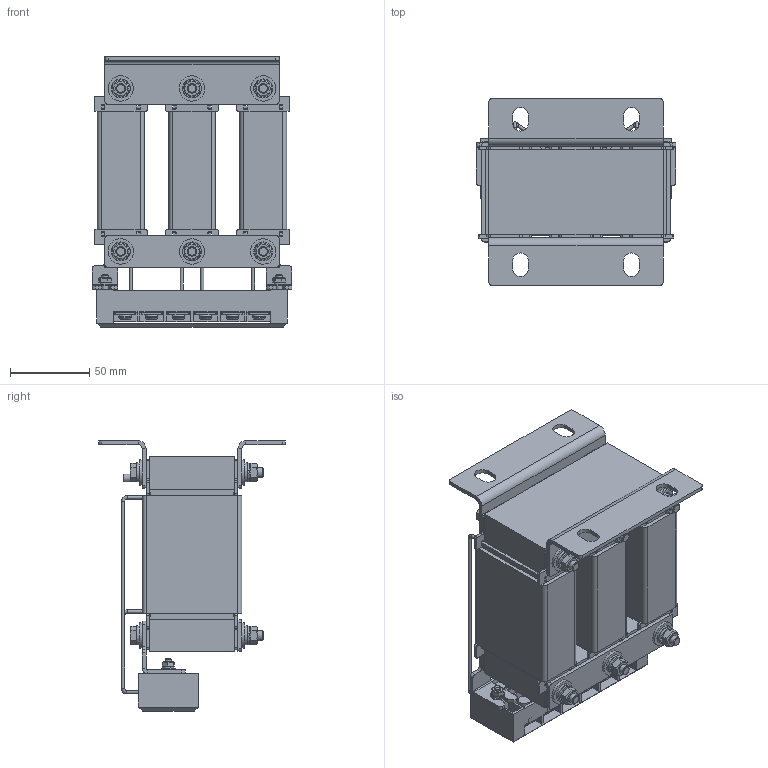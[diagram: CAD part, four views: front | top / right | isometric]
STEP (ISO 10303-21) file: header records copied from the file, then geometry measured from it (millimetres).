
FILE_DESCRIPTION (( 'STEP AP203' ), '1' );
FILE_NAME ('Ñåòåâîé äðîññåëü _ ISF-18.5_38.5-4.STEP', '2026-07-22T09:34:37', ( '' ), ( '' ), 'SwSTEP 2.0', 'SolidWorks 2021', '' );
FILE_SCHEMA (( 'CONFIG_CONTROL_DESIGN' ));
Length unit declared in the file: millimetre
Products named in the file (30): Ñòåíêà êàðêàñà êàòóøêè ïðîäîëüíàÿ _ 11-22_04; Ëàïà ñî øïèëüêîé çàçåìëåíèÿ _ 5.5-22_‘â ­¤ àâ 01; Øàéáà ïðóæèííàÿ DIN 127 (A)_Œ4; Óãîëîê êëåììíèêà _ 11-22_01; Áîëò DIN 933_Œ6å80; ������� _ 11-22_�ࠢ��; Ãàéêà DIN 934_Œ6; ������� � �������� _ 11-22_�ࠢ��; Ïëàñòèíà ïðèæèìíàÿ _ 5.5-22_01; 肃镟 _ 5.5-22_戔牠噔 01; 孰屐祉 蝈痨桧嚯 TB-4506; Ñåòåâîé äðîññåëü _ ISF-18.5_38.5-4; Êàòóøêà ñ êàðêàñîì _ 11-22_‹¥¢ ï; Ñòåíêà êàðêàñà êàòóøêè ïîïåðå÷íàÿ _ 11-22_04; Øàéáà ïëîñêàÿ DIN 125 (A)_Œ6; Êðûøêà êëåììíîãî òåðìèíàëà TB-4506; Øàéáà ïðóæèííàÿ DIN 127 (A)_Œ6; ﾑ褞蒟韭 _ ISF-18.5_01; Øàéáà ïëîñêàÿ DIN 125 (A)_Œ4; Êîðïóñ êëåììíîãî òåðìèíàëà TB-4506; 昢膼瘔 _ ISF-18.5; Ëàïà _ 5.5-22_‘â ­¤ àâ ¯®¤ è¯¨«ìªã 01; Êàòóøêà ñ êàðêàñîì _ 11-22_–¥­âà «ì­ ï; Øïèëüêà ïðèâàðíàÿ_Œ5å12; Øàéáà ïëîñêàÿ DIN 9021_Œ6 ¯®«¨ ¬¨¤; Âèíò DIN 965 PH_Œ4å16; Êàòóøêà _ 11-22_‹¥¢ ï; Ãàéêà DIN 934_Œ4; Êàòóøêà _ 11-22_–¥­âà «ì­ ï; Êàðêàñ êàòóøêè _ 11-22_04
Assembly tree (74 placements, depth 5):
  Ñåòåâîé äðîññåëü _ ISF-18.5_38.5-4
    ﾑ褞蒟韭 _ ISF-18.5_01
      ������� � �������� _ 11-22_�ࠢ��
        Êàðêàñ êàòóøêè _ 11-22_04
          Ñòåíêà êàðêàñà êàòóøêè ïðîäîëüíàÿ _ 11-22_04  x2
          Ñòåíêà êàðêàñà êàòóøêè ïîïåðå÷íàÿ _ 11-22_04  x2
        ������� _ 11-22_�ࠢ��
      Êàòóøêà ñ êàðêàñîì _ 11-22_–¥­âà «ì­ ï
        Êàðêàñ êàòóøêè _ 11-22_04
          Ñòåíêà êàðêàñà êàòóøêè ïðîäîëüíàÿ _ 11-22_04  x2
          Ñòåíêà êàðêàñà êàòóøêè ïîïåðå÷íàÿ _ 11-22_04  x2
        Êàòóøêà _ 11-22_–¥­âà «ì­ ï
      Êàòóøêà ñ êàðêàñîì _ 11-22_‹¥¢ ï
        Êàðêàñ êàòóøêè _ 11-22_04
          Ñòåíêà êàðêàñà êàòóøêè ïðîäîëüíàÿ _ 11-22_04  x2
          Ñòåíêà êàðêàñà êàòóøêè ïîïåðå÷íàÿ _ 11-22_04  x2
        Êàòóøêà _ 11-22_‹¥¢ ï
      昢膼瘔 _ ISF-18.5
    Óãîëîê êëåììíèêà _ 11-22_01
    Ïëàñòèíà ïðèæèìíàÿ _ 5.5-22_01
    肃镟 _ 5.5-22_戔牠噔 01
    Ëàïà ñî øïèëüêîé çàçåìëåíèÿ _ 5.5-22_‘â ­¤ àâ 01
      Ëàïà _ 5.5-22_‘â ­¤ àâ ¯®¤ è¯¨«ìªã 01
      Øïèëüêà ïðèâàðíàÿ_Œ5å12
    孰屐祉 蝈痨桧嚯 TB-4506
      Êîðïóñ êëåììíîãî òåðìèíàëà TB-4506
      Êðûøêà êëåììíîãî òåðìèíàëà TB-4506
    Øàéáà ïëîñêàÿ DIN 9021_Œ6 ¯®«¨ ¬¨¤  x12
    Øàéáà ïëîñêàÿ DIN 125 (A)_Œ6  x12
    Øàéáà ïðóæèííàÿ DIN 127 (A)_Œ6  x6
    Ãàéêà DIN 934_Œ6  x6
    Áîëò DIN 933_Œ6å80  x6
    Âèíò DIN 965 PH_Œ4å16  x2
    Øàéáà ïëîñêàÿ DIN 125 (A)_Œ4  x2
    Øàéáà ïðóæèííàÿ DIN 127 (A)_Œ4  x2
    Ãàéêà DIN 934_Œ4  x2
Bounding box: 126 x 118 x 170.7 mm (x, y, z)
Volume: 794922.6 mm3; surface area: 374972.5 mm2
Topology: 103 solids, 103 shells, 2284 faces, 5820 edges, 3793 vertices
Faces by surface type: plane 1387, cylinder 654, cone 139, bspline 80, torus 24
Full cylindrical faces by diameter (mm): 0.75 x1, 2 x24, 3.3 x2, 3.5 x1, 4 x2, 4.3 x2, 4.4 x2, 5 x55, 6 x6, 6.4 x24, 6.5 x1, 7 x6, 7.5 x4, 7.8 x12, 8 x12, 8.2 x12, 9 x2, 12 x12, 16 x12
Entity records: 43752 total; most frequent: CARTESIAN_POINT 8577, DIRECTION 6236, ORIENTED_EDGE 6134, EDGE_CURVE 3067, VECTOR 2180, LINE 2180, VERTEX_POINT 2107, AXIS2_PLACEMENT_3D 2028
